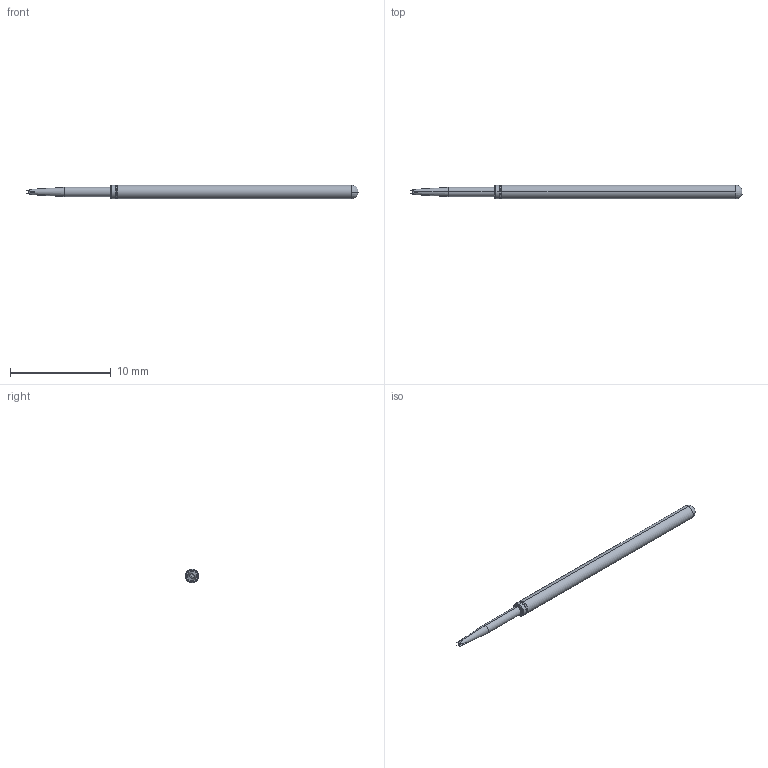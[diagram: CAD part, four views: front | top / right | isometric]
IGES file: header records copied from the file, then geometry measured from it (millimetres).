
Start section: SolidWorks IGES file using analytic representation for surfaces
Global section: file name: Z:\probe solid model mockups\Solidworks models\POGO-25 IGS files\POGO-25L18.IGS; native system: SolidWorks 2006 by SolidWorks Corporation; preprocessor: SolidWorks 2006 by SolidWorks Corporation; author: tsakatani; date: 071214.092838; units: inch
Bounding box: 33.02 x 1.37 x 1.37 mm (x, y, z)
Surface area: 128.8 mm2 (no closed solid volume)
Topology: 0 solids, 0 shells, 28 faces, 170 edges, 170 vertices
Faces by surface type: bspline 14, revolution 14
